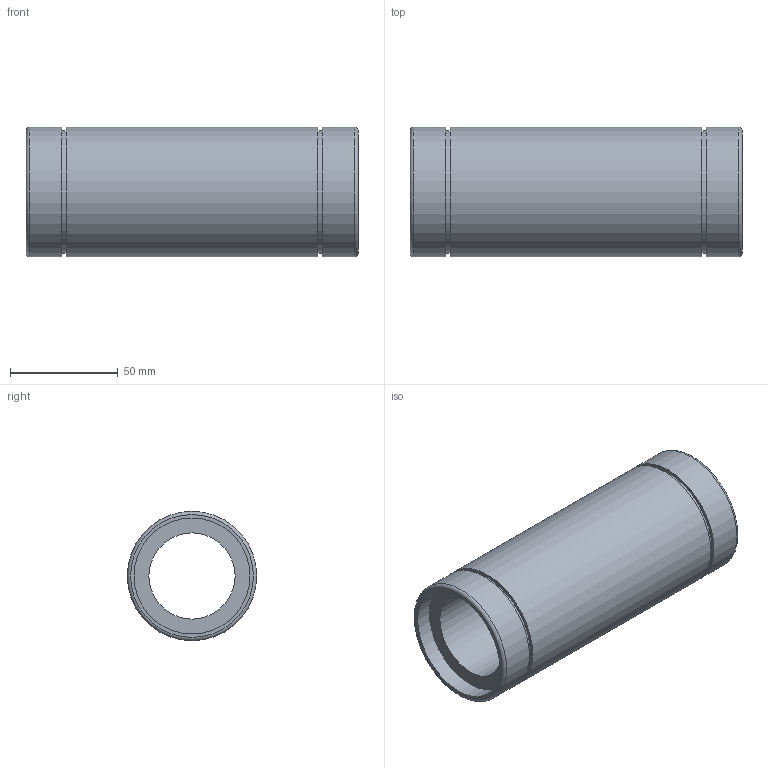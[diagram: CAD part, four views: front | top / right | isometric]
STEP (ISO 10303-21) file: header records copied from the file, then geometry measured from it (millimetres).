
FILE_DESCRIPTION( ( 'Unknown' ), '1' );
FILE_NAME( 'D:/累诀/己绕皋墨飘肺葱胶/11-04-06_档搁累己/01_府聪绢何教/LM L/LM 40L.stp', 'Unknown', ( 'Unknown' ), ( 'Unknown' ), 'PSStep 11.0', 'Unknown', ' ' );
FILE_SCHEMA( ( 'AUTOMOTIVE_DESIGN { 1 0 10303 214 1 1 1 1 }' ) );
Length unit declared in the file: millimetre
Products named in the file (1): 1
Bounding box: 154 x 60 x 60 mm (x, y, z)
Volume: 224908.4 mm3; surface area: 53008.2 mm2
Topology: 1 solids, 1 shells, 18 faces, 31 edges, 21 vertices
Faces by surface type: plane 8, cylinder 8, torus 2
Full cylindrical faces by diameter (mm): 40 x1, 53.8 x2, 57 x2, 60 x3
Entity records: 528 total; most frequent: DIRECTION 74, CARTESIAN_POINT 55, AXIS2_PLACEMENT_3D 37, EDGE_LOOP 36, ORIENTED_EDGE 36, FACE_OUTER_BOUND 28, STYLED_ITEM 18, PRESENTATION_STYLE_ASSIGNMENT 18
